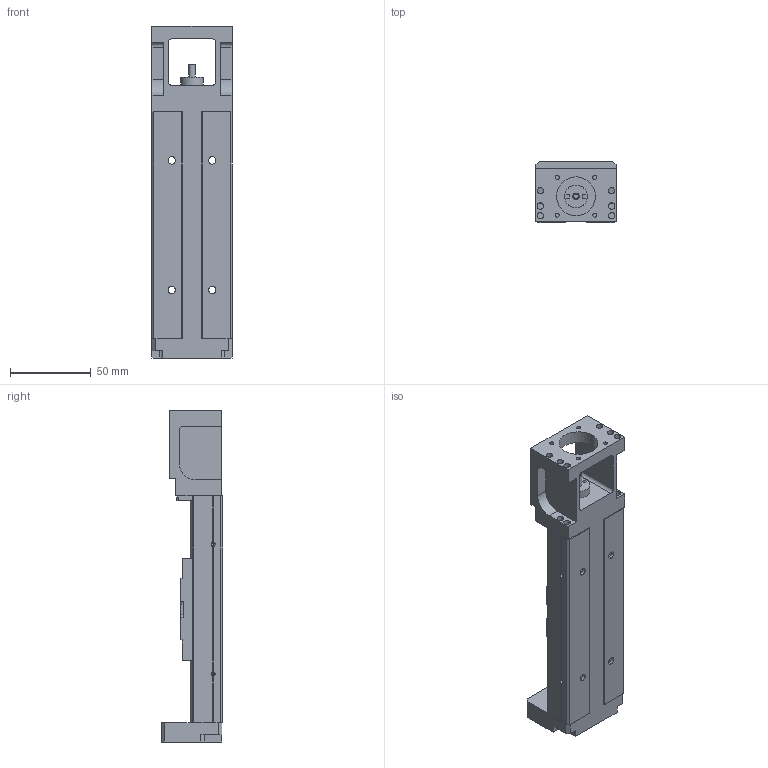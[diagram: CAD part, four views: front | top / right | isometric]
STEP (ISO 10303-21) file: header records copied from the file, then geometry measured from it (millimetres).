
FILE_DESCRIPTION (( 'STEP AP203' ), '1' );
FILE_NAME ('GSX50-50-LL08025-P7.STEP', '2013-11-02T01:43:38', ( '微软用户' ), ( '微软中国' ), 'SwSTEP 2.0', 'SolidWorks 2010', '' );
FILE_SCHEMA (( 'CONFIG_CONTROL_DESIGN' ));
Length unit declared in the file: millimetre
Products named in the file (1): GSX50-50-LL08025-P7
Bounding box: 50 x 38 x 205 mm (x, y, z)
Volume: 167800.3 mm3; surface area: 52245.2 mm2
Topology: 1 solids, 1 shells, 294 faces, 781 edges, 490 vertices
Faces by surface type: cylinder 136, plane 122, cone 36
Entity records: 9116 total; most frequent: CARTESIAN_POINT 1604, DIRECTION 1603, ORIENTED_EDGE 1498, EDGE_CURVE 749, AXIS2_PLACEMENT_3D 575, VERTEX_POINT 490, VECTOR 453, LINE 453
